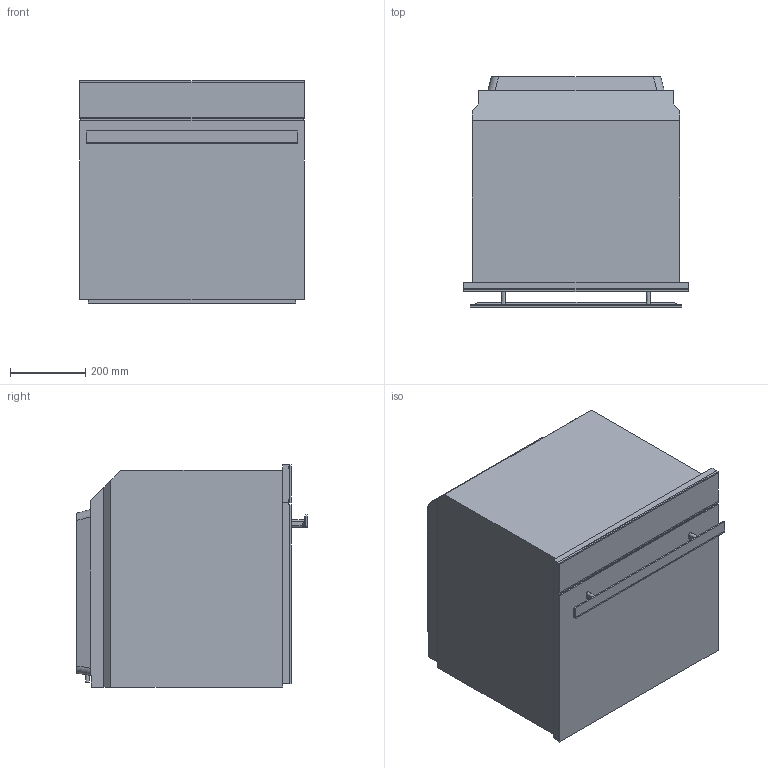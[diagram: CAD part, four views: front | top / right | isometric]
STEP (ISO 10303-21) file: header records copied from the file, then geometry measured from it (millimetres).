
FILE_DESCRIPTION(/* description */ ('Unknown'),/* implementation_level */ '2;1');
FILE_NAME(/* name */ 'SOA6606WAPNR',/* time_stamp */ '2025-07-16T11:40:18+02:00',/* author */ ('Unknown'),/* organization */ ('Unknown'),/* preprocessor_version */ 'ST-DEVELOPER v16.7',/* originating_system */ 'DEX',/* authorisation */ $);
FILE_SCHEMA (('AUTOMOTIVE_DESIGN {1 0 10303 214 3 1 1}'));
Length unit declared in the file: millimetre
Products named in the file (1): SOA6606WAPNR
Bounding box: 597 x 611.92 x 591.05 mm (x, y, z)
Volume: 174562114.4 mm3; surface area: 2158723.5 mm2
Topology: 6 solids, 6 shells, 134 faces, 360 edges, 240 vertices
Faces by surface type: plane 108, cylinder 14, bspline 12
Full cylindrical faces by diameter (mm): 10 x1
Entity records: 5400 total; most frequent: CARTESIAN_POINT 1382, ORIENTED_EDGE 716, DIRECTION 591, EDGE_CURVE 358, LINE 281, VECTOR 281, VERTEX_POINT 239, AXIS2_PLACEMENT_3D 155
